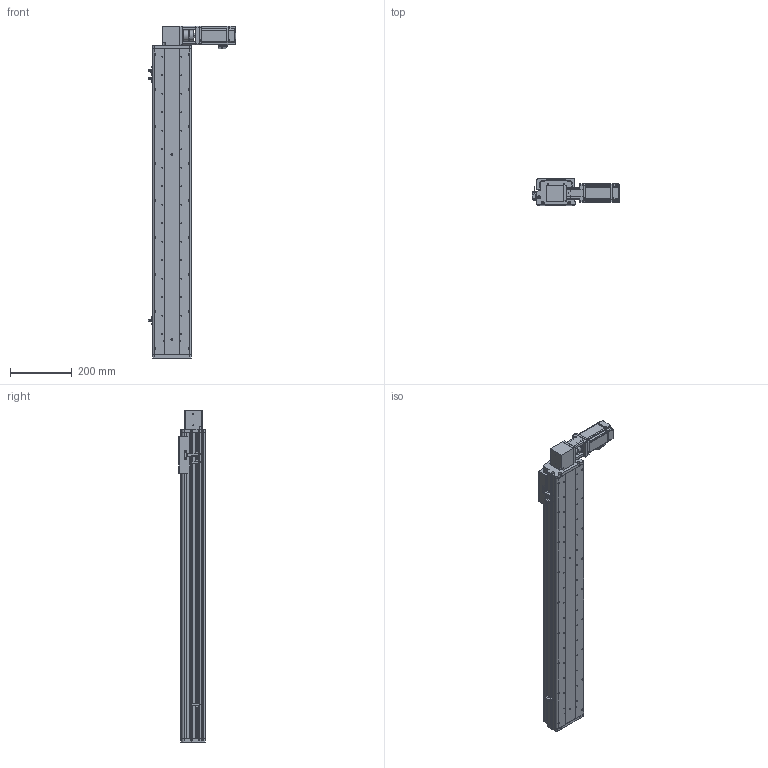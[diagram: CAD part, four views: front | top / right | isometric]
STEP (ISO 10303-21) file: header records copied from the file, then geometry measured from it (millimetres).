
FILE_DESCRIPTION (( 'STEP AP214' ), '1' );
FILE_NAME ('KSD125B-S800-MRT-CM.STEP', '2017-10-21T06:59:00', ( '微软用户' ), ( '微软中国' ), 'SwSTEP 2.0', 'SolidWorks 2014', '' );
FILE_SCHEMA (( 'AUTOMOTIVE_DESIGN' ));
Length unit declared in the file: millimetre
Products named in the file (16): KSD125B-S800-MRT-CM; 100宽马达安装板同步带左; KSD125模组800行程同步带-防尘盖; 125模组800行程同步带-底板; MHMD042G1CA_2_03; KSD125模组同步带-防撞垫2; CS-34X32-10X14; 100遵鎮湛假蚾啣1 ; 覜茼え68遵圉猾敕; U倰嫖萇假蚾璃; U倰嫖萇EEㄜSX672; KSD125模组同步带-防撞垫1; 100宽安装板同步带带电机座400W,86; 前端板-125宽模组同步带; 125模组同步带-尾端板1; KSD125模组同步带-滑动座1
Assembly tree (19 placements, depth 2):
  KSD125B-S800-MRT-CM
    KSD125模组同步带-滑动座1
    125模组同步带-尾端板1
    前端板-125宽模组同步带
    100宽安装板同步带带电机座400W,86
    KSD125模组同步带-防撞垫1
    U倰嫖萇EEㄜSX672  x3
    U倰嫖萇假蚾璃  x3
    覜茼え68遵圉猾敕
    100遵鎮湛假蚾啣1 
    CS-34X32-10X14
    KSD125模组同步带-防撞垫2
    MHMD042G1CA_2_03
    125模组800行程同步带-底板
    KSD125模组800行程同步带-防尘盖
    100宽马达安装板同步带左
Bounding box: 282.7 x 86 x 1077 mm (x, y, z)
Volume: 3374476 mm3; surface area: 1120220.6 mm2
Topology: 18 solids, 21 shells, 1692 faces, 4852 edges, 3200 vertices
Faces by surface type: cylinder 885, plane 704, cone 81, bspline 22
Entity records: 59484 total; most frequent: CARTESIAN_POINT 12038, DIRECTION 8707, ORIENTED_EDGE 8224, EDGE_CURVE 4190, AXIS2_PLACEMENT_3D 3237, VERTEX_POINT 2792, VECTOR 2233, LINE 2233
